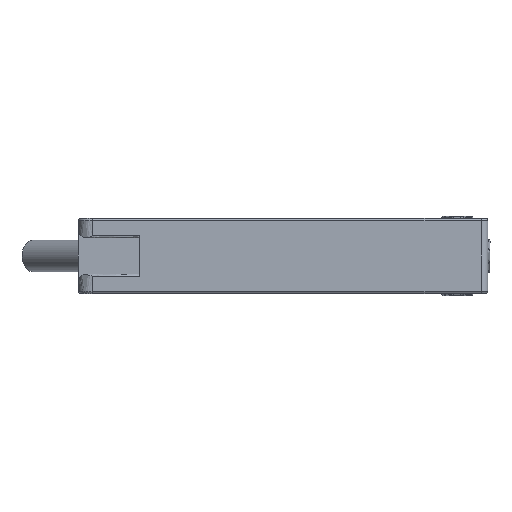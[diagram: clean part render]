
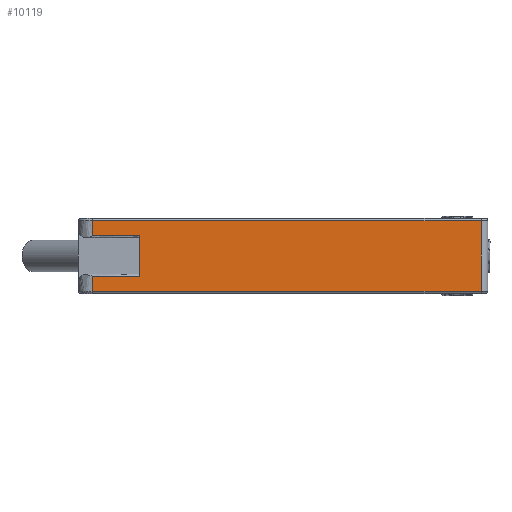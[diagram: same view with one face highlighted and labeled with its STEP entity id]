
A CAD part, left-side view. The second image highlights one B-rep face of the part: STEP entity #10119.
In plain terms, the highlighted free-form (B-spline) face has degree [1, 1] with [2, 2] control points.
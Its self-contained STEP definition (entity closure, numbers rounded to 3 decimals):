
#6621=CARTESIAN_POINT('V200',(-6.45,96.,
   134.093));
#6622=VERTEX_POINT('V200',#6621);
#6636=CARTESIAN_POINT('V194',(-6.45,103.0,
   134.093));
#6637=VERTEX_POINT('V194',#6636);
#6638=CARTESIAN_POINT('E254',(-6.45,103.0,
   134.093));
#6639=CARTESIAN_POINT('E254',(-6.45,96.0,
   134.093));
#6640=B_SPLINE_CURVE_WITH_KNOTS('E254',1,(#6638,#6639),
   .POLYLINE_FORM.,.F.,.U.,(2,2),(1.925,
   8.66),.UNSPECIFIED.);
#6641=EDGE_CURVE('E254',#6637,#6622,#6640,.T.);
#6861=CARTESIAN_POINT('V201',(-6.45,96.,
   128.164));
#6862=VERTEX_POINT('V201',#6861);
#6876=CARTESIAN_POINT('E247',(-6.45,96.0,
   134.093));
#6877=CARTESIAN_POINT('E247',(-6.45,96.0,
   128.164));
#6878=QUASI_UNIFORM_CURVE('E247',1,(#6876,#6877),.POLYLINE_FORM.,.F.,
   .U.);
#6879=EDGE_CURVE('E247',#6622,#6862,#6878,.T.);
#6903=CARTESIAN_POINT('V185',(-6.45,103.0,
   128.164));
#6904=VERTEX_POINT('V185',#6903);
#6905=CARTESIAN_POINT('E253',(-6.45,96.0,
   128.164));
#6906=CARTESIAN_POINT('E253',(-6.45,103.0,
   128.164));
#6907=B_SPLINE_CURVE_WITH_KNOTS('E253',1,(#6905,#6906),
   .POLYLINE_FORM.,.F.,.U.,(2,2),(0.337,
   1.518),.UNSPECIFIED.);
#6908=EDGE_CURVE('E253',#6862,#6904,#6907,.T.);
#6940=CARTESIAN_POINT('V184',(-6.45,103.0,
   125.928));
#6941=VERTEX_POINT('V184',#6940);
#6955=CARTESIAN_POINT('E231',(-6.45,103.0,
   128.164));
#6956=CARTESIAN_POINT('E231',(-6.45,103.0,
   125.928));
#6957=B_SPLINE_CURVE_WITH_KNOTS('E231',1,(#6955,#6956),
   .POLYLINE_FORM.,.F.,.U.,(2,2),(2.116,
   2.675),.UNSPECIFIED.);
#6958=EDGE_CURVE('E231',#6904,#6941,#6957,.T.);
#7243=CARTESIAN_POINT('V204',(-6.45,46.0,
   125.928));
#7244=VERTEX_POINT('V204',#7243);
#7258=CARTESIAN_POINT('E260',(-6.45,103.0,
   125.928));
#7259=CARTESIAN_POINT('E260',(-6.45,46.0,
   125.928));
#7260=B_SPLINE_CURVE_WITH_KNOTS('E260',1,(#7258,#7259),
   .POLYLINE_FORM.,.F.,.U.,(2,2),(2.0,122.958),
   .UNSPECIFIED.);
#7261=EDGE_CURVE('E260',#6941,#7244,#7260,.T.);
#10067=CARTESIAN_POINT('V189',(-6.45,103.0,
   136.328));
#10068=VERTEX_POINT('V189',#10067);
#10086=CARTESIAN_POINT('E241',(-6.45,103.0,
   136.328));
#10087=CARTESIAN_POINT('E241',(-6.45,103.0,
   134.093));
#10088=B_SPLINE_CURVE_WITH_KNOTS('E241',1,(#10086,#10087),
   .POLYLINE_FORM.,.F.,.U.,(2,2),(0.075,
   0.634),.UNSPECIFIED.);
#10089=EDGE_CURVE('E241',#10068,#6637,#10088,.T.);
#10094=CARTESIAN_POINT('F68',(-6.45,103.0,
   125.628));
#10095=CARTESIAN_POINT('F68',(-6.45,45.0,
   125.628));
#10096=CARTESIAN_POINT('F68',(-6.45,103.0,
   136.628));
#10097=CARTESIAN_POINT('F68',(-6.45,45.0,
   136.628));
#10098=B_SPLINE_SURFACE_WITH_KNOTS('F68',1,1,((#10094,#10096),(
   #10095,#10097)),.PLANE_SURF.,.F.,.F.,.U.,(2,2),(2,2),(0.0,
   5.273),(0.0,1.0),.UNSPECIFIED.);
#10099=CARTESIAN_POINT('V203',(-6.45,46.0,
   136.328));
#10100=VERTEX_POINT('V203',#10099);
#10101=CARTESIAN_POINT('E259',(-6.45,46.0,
   136.328));
#10102=CARTESIAN_POINT('E259',(-6.45,103.0,
   136.328));
#10103=B_SPLINE_CURVE_WITH_KNOTS('E259',1,(#10101,#10102),
   .POLYLINE_FORM.,.F.,.U.,(2,2),(2.0,122.958),
   .UNSPECIFIED.);
#10104=EDGE_CURVE('E259',#10100,#10068,#10103,.T.);
#10105=ORIENTED_EDGE('E259',*,*,#10104,.T.);
#10106=ORIENTED_EDGE('F59',*,*,#10089,.T.);
#10107=ORIENTED_EDGE('E254',*,*,#6641,.T.);
#10108=ORIENTED_EDGE('E247',*,*,#6879,.T.);
#10109=ORIENTED_EDGE('E253',*,*,#6908,.T.);
#10110=ORIENTED_EDGE('E231',*,*,#6958,.T.);
#10111=ORIENTED_EDGE('F127',*,*,#7261,.T.);
#10112=CARTESIAN_POINT('E261',(-6.45,46.0,
   125.928));
#10113=CARTESIAN_POINT('E261',(-6.45,46.0,
   136.328));
#10114=B_SPLINE_CURVE_WITH_KNOTS('E261',1,(#10112,#10113),
   .POLYLINE_FORM.,.F.,.U.,(2,2),(2.073,
   8.694),.UNSPECIFIED.);
#10115=EDGE_CURVE('E261',#7244,#10100,#10114,.T.);
#10116=ORIENTED_EDGE('E261',*,*,#10115,.T.);
#10117=EDGE_LOOP('F68',(#10105,#10106,#10107,#10108,#10109,#10110,
   #10111,#10116));
#10118=FACE_OUTER_BOUND('F68',#10117,.T.);
#10119=ADVANCED_FACE('F68',(#10118),#10098,.T.);
